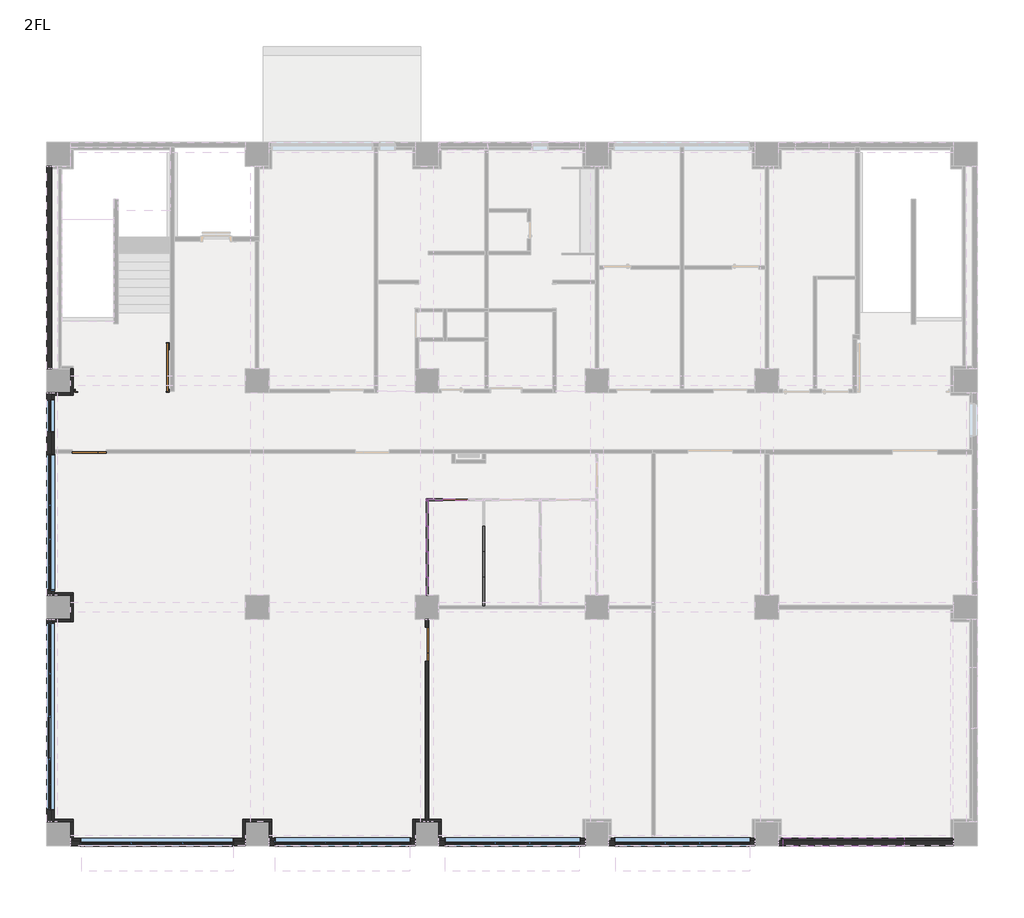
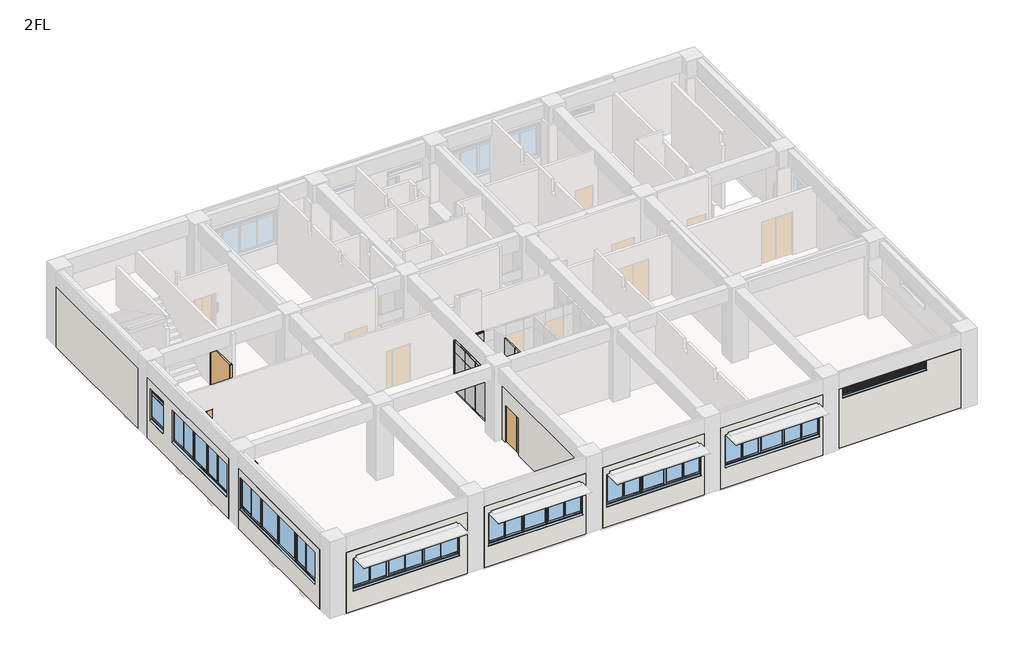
# One storey, part 1 of 7: 23 walls, 19 plates, 8 windows, 5 members, 4 doors.
"""IFC4 building model written with IfcOpenShell, lengths in millimetres."""

from ifc_helpers import new_model, si_unit, origin, place, context, project, spatial, faceted_brep, transform, mapped, element, save
from components import door_18b0804b, door_c235f466, pt1_1e1990d0, sd12_bd36843f, member_b4131282, member_8fee23aa, plate_5a323a1a, plate_79e9bfaa, plate_84f50978, plate_53a28b3e, plate_90ae5f52, plate_9f777739, plate_48083828, plate_facfa67a, pt_5_5902302a, ag_02_89f51cda, aw1_ddd8473e, aw2_a9c71f60, aw3_4e8724e7, aw6a_a2a86f3e

model = new_model("IFC4")

# Units and contexts
model_context = context("Model", 3, world=origin())
ifc_project = project(units=[si_unit("LENGTHUNIT", "METRE", prefix="MILLI")], contexts=[model_context])

# Site, building, storey
site = spatial("IfcSite", under=ifc_project)
building = spatial("IfcBuilding", under=site)
storey = spatial("IfcBuildingStorey", under=building, Name="2FL", Elevation=4100.0)

# Doors
placement = place(None, origin())
door_shape = door_18b0804b(model_context)
element("IfcDoor", 1, ObjectType="営_親子扉 : LD2 1200*2000", at=placement, inside=storey, context=model_context, shape_type="MappedRepresentation", body=[
    mapped(door_shape, transform((1065.0, 13500.0, 4100.0), x_axis=(-1.0, 0.0, 0.0), y_axis=(0.0, -1.0, 0.0), z_axis=(0.0, 0.0, 1.0))),
])
door_2_shape = door_c235f466(model_context)
element("IfcDoor", 2, ObjectType="営_親子扉 : LD2 1200*2000", at=placement, inside=storey, context=model_context, shape_type="MappedRepresentation", body=[
    mapped(door_2_shape, transform((13000.0, 6700.0, 4100.0), x_axis=(0.0, 1.0, 0.0), y_axis=(-1.0, 0.0, 0.0), z_axis=(0.0, 0.0, 1.0))),
])
pt1_shape = pt1_1e1990d0(model_context)
element("IfcDoor", 3, ObjectType="営_パーティションドア : PT3", at=placement, inside=storey, context=model_context, shape_type="MappedRepresentation", body=[
    mapped(pt1_shape, transform((14000.0, 11800.0, 4100.0), x_axis=(-1.0, 0.0, 0.0), y_axis=(0.0, -1.0, 0.0), z_axis=(0.0, 0.0, 1.0))),
])
sd12_shape = sd12_bd36843f(model_context)
element("IfcDoor", 4, ObjectType="営_随閉扉 B階段 2～4F : SD12", at=placement, inside=storey, context=model_context, shape_type="MappedRepresentation", body=[
    mapped(sd12_shape, transform((4000.0, 15635.0, 4100.0), x_axis=(0.0, -1.0, 0.0), y_axis=(1.0, 0.0, 0.0), z_axis=(0.0, 0.0, 1.0))),
])

# Members
member_shape = member_b4131282(model_context)
element("IfcMember", 5, ObjectType="長方形マリオン : 70*70", at=placement, inside=storey, context=model_context, shape_type="MappedRepresentation", body=[
    mapped(member_shape, transform((13000.0, 11835.0, 4100.0), x_axis=(0.0, 1.0, 0.0), y_axis=(1.0, 0.0, 0.0), z_axis=(0.0, 0.0, -1.0))),
])
member_2_shape = member_8fee23aa(model_context)
element("IfcMember", 6, ObjectType="長方形マリオン : 70*70", at=placement, inside=storey, context=model_context, shape_type="MappedRepresentation", body=[
    mapped(member_2_shape, transform((13000.0, 11835.0, 6200.0), x_axis=(0.0, 1.0, 0.0), y_axis=(1.0, 0.0, 0.0), z_axis=(0.0, 0.0, -1.0))),
])
element("IfcMember", 7, ObjectType="長方形マリオン : 70*70", at=placement, inside=storey, context=model_context, shape_type="MappedRepresentation", body=[
    mapped(member_shape, transform((12965.0, 11800.0, 6200.0), x_axis=(-1.0, 0.0, 0.0), y_axis=(0.0, -1.0, 0.0), z_axis=(0.0, 0.0, 1.0))),
])
element("IfcMember", 8, ObjectType="長方形マリオン : 70*70", at=placement, inside=storey, context=model_context, shape_type="MappedRepresentation", body=[
    mapped(member_2_shape, transform((12965.0, 11800.0, 6800.0), x_axis=(-1.0, 0.0, 0.0), y_axis=(0.0, -1.0, 0.0), z_axis=(0.0, 0.0, 1.0))),
])
element("IfcMember", 9, ObjectType="長方形マリオン : 70*70", at=placement, inside=storey, context=model_context, shape_type="MappedRepresentation", body=[
    mapped(member_2_shape, transform((15000.0, 8060.0, 4700.0), x_axis=(0.0, -1.0, 0.0), y_axis=(1.0, 0.0, 0.0), z_axis=(0.0, 0.0, 1.0))),
])

# Plates
plate_shape = plate_5a323a1a(model_context)
element("IfcPlate", 10, ObjectType="営_パーティションパネル_下部 : パーティションパネル_下部", at=placement, inside=storey, context=model_context, shape_type="MappedRepresentation", body=[
    mapped(plate_shape, transform((15000.0, 8147.4999998, 4100.0), x_axis=(0.0, 1.0, 0.0), y_axis=(-1.0, 0.0, 0.0), z_axis=(0.0, 0.0, 1.0))),
])
plate_2_shape = plate_79e9bfaa(model_context)
element("IfcPlate", 11, ObjectType="営_パーティションパネル_下部 : パーティションパネル_下部", at=placement, inside=storey, context=model_context, shape_type="MappedRepresentation", body=[
    mapped(plate_2_shape, transform((15000.0, 8112.4999998, 4700.0), x_axis=(0.0, 1.0, 0.0), y_axis=(-1.0, 0.0, 0.0), z_axis=(0.0, 0.0, 1.0))),
])
plate_3_shape = plate_84f50978(model_context)
element("IfcPlate", 12, ObjectType="営_パーティションパネル_下部 : パーティションパネル_下部", at=placement, inside=storey, context=model_context, shape_type="MappedRepresentation", body=[
    mapped(plate_3_shape, transform((13000.0, 9514.9999997, 4100.0), x_axis=(0.0, 1.0, 0.0), y_axis=(-1.0, 0.0, 0.0), z_axis=(0.0, 0.0, 1.0))),
])
element("IfcPlate", 13, ObjectType="営_パーティションパネル_下部 : パーティションパネル_下部", at=placement, inside=storey, context=model_context, shape_type="MappedRepresentation", body=[
    mapped(plate_3_shape, transform((13000.0, 10414.9999997, 4100.0), x_axis=(0.0, 1.0, 0.0), y_axis=(-1.0, 0.0, 0.0), z_axis=(0.0, 0.0, 1.0))),
])
element("IfcPlate", 14, ObjectType="営_パーティションパネル_下部 : パーティションパネル_下部", at=placement, inside=storey, context=model_context, shape_type="MappedRepresentation", body=[
    mapped(plate_3_shape, transform((13000.0, 11314.9999998, 4100.0), x_axis=(0.0, 1.0, 0.0), y_axis=(-1.0, 0.0, 0.0), z_axis=(0.0, 0.0, 1.0))),
])
element("IfcPlate", 15, ObjectType="営_パーティションパネル_下部 : パーティションパネル_下部", at=placement, inside=storey, context=model_context, shape_type="MappedRepresentation", body=[
    mapped(plate_3_shape, transform((15000.0, 8614.9999997, 4700.0), x_axis=(0.0, 1.0, 0.0), y_axis=(-1.0, 0.0, 0.0), z_axis=(0.0, 0.0, 1.0))),
])
element("IfcPlate", 16, ObjectType="営_パーティションパネル_下部 : パーティションパネル_下部", at=placement, inside=storey, context=model_context, shape_type="MappedRepresentation", body=[
    mapped(plate_3_shape, transform((15000.0, 9514.9999997, 4700.0), x_axis=(0.0, 1.0, 0.0), y_axis=(-1.0, 0.0, 0.0), z_axis=(0.0, 0.0, 1.0))),
])
element("IfcPlate", 17, ObjectType="営_パーティションパネル_下部 : パーティションパネル_下部", at=placement, inside=storey, context=model_context, shape_type="MappedRepresentation", body=[
    mapped(plate_3_shape, transform((15000.0, 10414.9999997, 4700.0), x_axis=(0.0, 1.0, 0.0), y_axis=(-1.0, 0.0, 0.0), z_axis=(0.0, 0.0, 1.0))),
])
plate_4_shape = plate_53a28b3e(model_context)
element("IfcPlate", 18, ObjectType="営_パーティションパネル_上部 : パーティションパネル_上部", at=placement, inside=storey, context=model_context, shape_type="MappedRepresentation", body=[
    mapped(plate_4_shape, transform((13000.0, 9514.9999997, 6200.0), x_axis=(0.0, 1.0, 0.0), y_axis=(-1.0, 0.0, 0.0), z_axis=(0.0, 0.0, 1.0))),
])
element("IfcPlate", 19, ObjectType="営_パーティションパネル_上部 : パーティションパネル_上部", at=placement, inside=storey, context=model_context, shape_type="MappedRepresentation", body=[
    mapped(plate_4_shape, transform((13000.0, 10414.9999997, 6200.0), x_axis=(0.0, 1.0, 0.0), y_axis=(-1.0, 0.0, 0.0), z_axis=(0.0, 0.0, 1.0))),
])
element("IfcPlate", 20, ObjectType="営_パーティションパネル_上部 : パーティションパネル_上部", at=placement, inside=storey, context=model_context, shape_type="MappedRepresentation", body=[
    mapped(plate_4_shape, transform((13000.0, 11314.9999998, 6200.0), x_axis=(0.0, 1.0, 0.0), y_axis=(-1.0, 0.0, 0.0), z_axis=(0.0, 0.0, 1.0))),
])
element("IfcPlate", 21, ObjectType="営_パーティションパネル_上部 : パーティションパネル_上部", at=placement, inside=storey, context=model_context, shape_type="MappedRepresentation", body=[
    mapped(plate_4_shape, transform((14000.0, 11800.0, 6200.0), x_axis=(1.0, 0.0, 0.0), y_axis=(0.0, 1.0, 0.0), z_axis=(0.0, 0.0, 1.0))),
])
plate_5_shape = plate_90ae5f52(model_context)
element("IfcPlate", 22, ObjectType="営_パーティションパネル_下部 : パーティションパネル_下部", at=placement, inside=storey, context=model_context, shape_type="MappedRepresentation", body=[
    mapped(plate_5_shape, transform((13292.5, 11800.0, 4100.0), x_axis=(1.0, 0.0, 0.0), y_axis=(0.0, 1.0, 0.0), z_axis=(0.0, 0.0, 1.0))),
])
plate_6_shape = plate_9f777739(model_context)
element("IfcPlate", 23, ObjectType="営_パーティションパネル_上部 : パーティションパネル_上部", at=placement, inside=storey, context=model_context, shape_type="MappedRepresentation", body=[
    mapped(plate_6_shape, transform((13292.5, 11800.0, 6200.0), x_axis=(1.0, 0.0, 0.0), y_axis=(0.0, 1.0, 0.0), z_axis=(0.0, 0.0, 1.0))),
])
plate_7_shape = plate_48083828(model_context)
element("IfcPlate", 24, ObjectType="営_パーティションパネル_下部 : パーティションパネル_下部", at=placement, inside=storey, context=model_context, shape_type="MappedRepresentation", body=[
    mapped(plate_7_shape, transform((13000.0, 8742.4999998, 4100.0), x_axis=(0.0, 1.0, 0.0), y_axis=(-1.0, 0.0, 0.0), z_axis=(0.0, 0.0, 1.0))),
])
plate_8_shape = plate_facfa67a(model_context)
element("IfcPlate", 25, ObjectType="営_パーティションパネル_上部 : パーティションパネル_上部", at=placement, inside=storey, context=model_context, shape_type="MappedRepresentation", body=[
    mapped(plate_8_shape, transform((13000.0, 8742.4999998, 6200.0), x_axis=(0.0, 1.0, 0.0), y_axis=(-1.0, 0.0, 0.0), z_axis=(0.0, 0.0, 1.0))),
])
pt_5_shape = pt_5_5902302a(model_context)
element("IfcPlate", 26, ObjectType="営_パーティションパネル_下部 : パーティションパネル_下部", at=placement, inside=storey, context=model_context, shape_type="MappedRepresentation", body=[
    mapped(pt_5_shape, transform((15000.0, 8614.9999997, 4100.0), x_axis=(0.0, 1.0, 0.0), y_axis=(-1.0, 0.0, 0.0), z_axis=(0.0, 0.0, 1.0))),
])
element("IfcPlate", 27, ObjectType="営_パーティションパネル_下部 : パーティションパネル_下部", at=placement, inside=storey, context=model_context, shape_type="MappedRepresentation", body=[
    mapped(pt_5_shape, transform((15000.0, 10414.9999997, 4100.0), x_axis=(0.0, 1.0, 0.0), y_axis=(-1.0, 0.0, 0.0), z_axis=(0.0, 0.0, 1.0))),
])
element("IfcPlate", 28, ObjectType="営_パーティションパネル_下部 : PT-5", at=placement, inside=storey, context=model_context, shape_type="MappedRepresentation", body=[
    mapped(pt_5_shape, transform((15000.0, 9514.9999997, 4100.0), x_axis=(0.0, 1.0, 0.0), y_axis=(-1.0, 0.0, 0.0), z_axis=(0.0, 0.0, 1.0))),
])

# Walls
element("IfcWall", 29, ObjectType="(外壁)RC150+20", at=placement, inside=storey, context=model_context, shape_type="Brep", body=[
    faceted_brep([(-250.0, 15580.0, 7200.0), (-250.0, 8420.0, 7200.0), (-250.0, 8420.0, 4000.0), (-250.0, 15580.0, 4000.0), (-250.0, 13410.0, 6820.0), (-250.0, 13410.0, 5165.0), (-250.0, 8590.0, 5165.0), (-250.0, 8590.0, 6820.0), (-250.0, 15345.0, 6820.0), (-250.0, 15345.0, 5165.0), (-250.0, 14165.0, 5165.0), (-250.0, 14165.0, 6820.0), (-420.0, 8420.0, 7200.0), (-420.0, 15580.0, 7200.0), (-420.0, 15580.0, 4000.0), (-420.0, 8420.0, 4000.0), (-420.0, 8620.0, 5075.0), (-420.0, 13380.0, 5075.0), (-420.0, 13380.0, 6795.0), (-420.0, 8620.0, 6795.0), (-420.0, 14195.0, 5075.0), (-420.0, 15315.0, 5075.0), (-420.0, 15315.0, 6795.0), (-420.0, 14195.0, 6795.0), (-335.0, 8420.0, 4000.0), (-325.0, 15580.0, 4000.0), (-290.0, 13410.0, 6820.0), (-290.0, 13410.0, 5165.0), (-290.0, 8590.0, 5165.0), (-290.0, 8590.0, 6820.0), (-290.0, 13400.0, 5165.0), (-290.0, 8600.0, 5165.0), (-290.0, 8600.0, 6815.0), (-290.0, 13400.0, 6815.0), (-360.0, 13400.0, 6815.0), (-360.0, 13400.0, 5084.2307692), (-290.0, 13400.0, 5095.0), (-290.0, 8600.0, 5095.0), (-360.0, 8600.0, 5084.2307692), (-360.0, 8600.0, 6815.0), (-360.0, 13380.0, 5084.2307692), (-360.0, 8620.0, 5084.2307692), (-360.0, 8620.0, 6795.0), (-360.0, 13380.0, 6795.0), (-290.0, 15345.0, 6820.0), (-290.0, 15345.0, 5165.0), (-290.0, 14165.0, 5165.0), (-290.0, 14165.0, 6820.0), (-290.0, 15335.0, 5165.0), (-290.0, 14175.0, 5165.0), (-290.0, 14175.0, 6815.0), (-290.0, 15335.0, 6815.0), (-360.0, 15335.0, 6815.0), (-360.0, 15335.0, 5084.2307692), (-290.0, 15335.0, 5095.0), (-290.0, 14175.0, 5095.0), (-360.0, 14175.0, 5084.2307692), (-360.0, 14175.0, 6815.0), (-360.0, 15315.0, 5084.2307692), (-360.0, 14195.0, 5084.2307692), (-360.0, 14195.0, 6795.0), (-360.0, 15315.0, 6795.0)], [[[0, 1, 2, 3], [4, 5, 6, 7], [8, 9, 10, 11]], [[12, 13, 14, 15], [16, 17, 18, 19], [20, 21, 22, 23]], [[2, 24, 15, 14, 25, 3]], [[26, 27, 5, 4]], [[28, 29, 7, 6]], [[5, 27, 30, 31, 28, 6]], [[27, 26, 29, 28, 31, 32, 33, 30]], [[26, 4, 7, 29]], [[30, 33, 34, 35, 36]], [[32, 31, 37, 38, 39]], [[36, 35, 40, 17, 16, 41, 38, 37]], [[35, 34, 39, 38, 41, 42, 43, 40]], [[33, 32, 39, 34]], [[31, 30, 36, 37]], [[17, 40, 43, 18]], [[41, 16, 19, 42]], [[43, 42, 19, 18]], [[44, 45, 9, 8]], [[46, 47, 11, 10]], [[9, 45, 48, 49, 46, 10]], [[45, 44, 47, 46, 49, 50, 51, 48]], [[44, 8, 11, 47]], [[48, 51, 52, 53, 54]], [[50, 49, 55, 56, 57]], [[54, 53, 58, 21, 20, 59, 56, 55]], [[53, 52, 57, 56, 59, 60, 61, 58]], [[51, 50, 57, 52]], [[49, 48, 54, 55]], [[21, 58, 61, 22]], [[59, 20, 23, 60]], [[61, 60, 23, 22]], [[15, 24, 2, 1, 12]], [[3, 25, 14, 13, 0]], [[1, 0, 13, 12]]]),
    faceted_brep([(-250.0, 23580.0, 7200.0), (-250.0, 16420.0, 7200.0), (-250.0, 16420.0, 4000.0), (-250.0, 23580.0, 4000.0), (-420.0, 16420.0, 7200.0), (-420.0, 23580.0, 7200.0), (-420.0, 23580.0, 4000.0), (-420.0, 16420.0, 4000.0), (-325.0, 16420.0, 4000.0), (-325.0, 23580.0, 4000.0)], [[[0, 1, 2, 3]], [[4, 5, 6, 7]], [[2, 8, 7, 6, 9, 3]], [[7, 8, 2, 1, 4]], [[3, 9, 6, 5, 0]], [[1, 0, 5, 4]]]),
    faceted_brep([(-250.0, 420.0, 4000.0), (-250.0, 7580.0, 4000.0), (-250.0, 7580.0, 7200.0), (-250.0, 420.0, 7200.0), (-250.0, 7465.0, 6820.0), (-250.0, 7465.0, 5165.0), (-250.0, 835.0, 5165.0), (-250.0, 835.0, 6820.0), (-420.0, 7580.0, 4000.0), (-420.0, 420.0, 4000.0), (-420.0, 420.0, 7200.0), (-420.0, 7580.0, 7200.0), (-420.0, 865.0, 5075.0), (-420.0, 7435.0, 5075.0), (-420.0, 7435.0, 6795.0), (-420.0, 865.0, 6795.0), (-290.0, 7465.0, 6820.0), (-290.0, 7465.0, 5165.0), (-290.0, 835.0, 5165.0), (-290.0, 835.0, 6820.0), (-290.0, 7455.0, 5165.0), (-290.0, 845.0, 5165.0), (-290.0, 845.0, 6815.0), (-290.0, 7455.0, 6815.0), (-360.0, 7455.0, 6815.0), (-360.0, 7455.0, 5084.2307692), (-290.0, 7455.0, 5095.0), (-290.0, 845.0, 5095.0), (-360.0, 845.0, 5084.2307692), (-360.0, 845.0, 6815.0), (-360.0, 7435.0, 5084.2307692), (-360.0, 865.0, 5084.2307692), (-360.0, 865.0, 6795.0), (-360.0, 7435.0, 6795.0)], [[[0, 1, 2, 3], [4, 5, 6, 7]], [[8, 9, 10, 11], [12, 13, 14, 15]], [[0, 9, 8, 1]], [[16, 17, 5, 4]], [[18, 19, 7, 6]], [[5, 17, 20, 21, 18, 6]], [[17, 16, 19, 18, 21, 22, 23, 20]], [[16, 4, 7, 19]], [[20, 23, 24, 25, 26]], [[22, 21, 27, 28, 29]], [[26, 25, 30, 13, 12, 31, 28, 27]], [[25, 24, 29, 28, 31, 32, 33, 30]], [[23, 22, 29, 24]], [[21, 20, 26, 27]], [[13, 30, 33, 14]], [[31, 12, 15, 32]], [[33, 32, 15, 14]], [[9, 0, 3, 10]], [[1, 8, 11, 2]], [[3, 2, 11, 10]]]),
])
element("IfcWall", 30, ObjectType="(外壁)RC150+20", at=placement, inside=storey, context=model_context, shape_type="Brep", body=[
    faceted_brep([(420.0, -250.0, 7250.0), (6580.0, -250.0, 7250.0), (6580.0, -250.0, 4000.0), (420.0, -250.0, 4000.0), (752.5, -250.0, 6820.0), (752.5, -250.0, 5165.0), (6177.5, -250.0, 5165.0), (6177.5, -250.0, 6820.0), (6580.0, -420.0, 7250.0), (420.0, -420.0, 7250.0), (420.0, -420.0, 4000.0), (6580.0, -420.0, 4000.0), (6147.5, -420.0, 5075.0), (782.5, -420.0, 5075.0), (782.5, -420.0, 6795.0), (6147.5, -420.0, 6795.0), (420.0, -325.0, 4000.0), (6580.0, -325.0, 4000.0), (752.5, -290.0, 6820.0), (752.5, -290.0, 5165.0), (6177.5, -290.0, 5165.0), (6177.5, -290.0, 6820.0), (762.5, -290.0, 5165.0), (6167.5, -290.0, 5165.0), (6167.5, -290.0, 6815.0), (762.5, -290.0, 6815.0), (762.5, -360.0, 6815.0), (762.5, -360.0, 5084.2307692), (762.5, -290.0, 5095.0), (6167.5, -290.0, 5095.0), (6167.5, -360.0, 5084.2307692), (6167.5, -360.0, 6815.0), (782.5, -360.0, 5084.2307692), (6147.5, -360.0, 5084.2307692), (6147.5, -360.0, 6795.0), (782.5, -360.0, 6795.0)], [[[0, 1, 2, 3], [4, 5, 6, 7]], [[8, 9, 10, 11], [12, 13, 14, 15]], [[10, 16, 3, 2, 17, 11]], [[18, 19, 5, 4]], [[20, 21, 7, 6]], [[5, 19, 22, 23, 20, 6]], [[19, 18, 21, 20, 23, 24, 25, 22]], [[18, 4, 7, 21]], [[22, 25, 26, 27, 28]], [[24, 23, 29, 30, 31]], [[28, 27, 32, 13, 12, 33, 30, 29]], [[27, 26, 31, 30, 33, 34, 35, 32]], [[25, 24, 31, 26]], [[23, 22, 28, 29]], [[13, 32, 35, 14]], [[33, 12, 15, 34]], [[35, 34, 15, 14]], [[11, 17, 2, 1, 8]], [[0, 3, 16, 10, 9]], [[1, 0, 9, 8]]]),
    faceted_brep([(7420.0, -250.0, 7250.0), (12580.0, -250.0, 7250.0), (12580.0, -250.0, 4000.0), (7420.0, -250.0, 4000.0), (7610.0, -250.0, 6820.0), (7610.0, -250.0, 5165.0), (12430.0, -250.0, 5165.0), (12430.0, -250.0, 6820.0), (12580.0, -420.0, 7250.0), (7420.0, -420.0, 7250.0), (7420.0, -420.0, 4000.0), (12580.0, -420.0, 4000.0), (12400.0, -420.0, 5075.0), (7640.0, -420.0, 5075.0), (7640.0, -420.0, 6795.0), (12400.0, -420.0, 6795.0), (7420.0, -325.0, 4000.0), (12580.0, -325.0, 4000.0), (7610.0, -290.0, 6820.0), (7610.0, -290.0, 5165.0), (12430.0, -290.0, 5165.0), (12430.0, -290.0, 6820.0), (7620.0, -290.0, 5165.0), (12420.0, -290.0, 5165.0), (12420.0, -290.0, 6815.0), (7620.0, -290.0, 6815.0), (7620.0, -360.0, 6815.0), (7620.0, -360.0, 5084.2307692), (7620.0, -290.0, 5095.0), (12420.0, -290.0, 5095.0), (12420.0, -360.0, 5084.2307692), (12420.0, -360.0, 6815.0), (7640.0, -360.0, 5084.2307692), (12400.0, -360.0, 5084.2307692), (12400.0, -360.0, 6795.0), (7640.0, -360.0, 6795.0)], [[[0, 1, 2, 3], [4, 5, 6, 7]], [[8, 9, 10, 11], [12, 13, 14, 15]], [[10, 16, 3, 2, 17, 11]], [[3, 16, 10, 9, 0]], [[11, 17, 2, 1, 8]], [[1, 0, 9, 8]], [[18, 19, 5, 4]], [[20, 21, 7, 6]], [[5, 19, 22, 23, 20, 6]], [[19, 18, 21, 20, 23, 24, 25, 22]], [[18, 4, 7, 21]], [[22, 25, 26, 27, 28]], [[24, 23, 29, 30, 31]], [[28, 27, 32, 13, 12, 33, 30, 29]], [[27, 26, 31, 30, 33, 34, 35, 32]], [[25, 24, 31, 26]], [[23, 22, 28, 29]], [[13, 32, 35, 14]], [[33, 12, 15, 34]], [[35, 34, 15, 14]]]),
    faceted_brep([(13420.0, -250.0, 7250.0), (18580.0, -250.0, 7250.0), (18580.0, -250.0, 4000.0), (13420.0, -250.0, 4000.0), (18430.0, -250.0, 5165.0), (18430.0, -250.0, 6820.0), (13610.0, -250.0, 6820.0), (13610.0, -250.0, 5165.0), (18580.0, -420.0, 7250.0), (13420.0, -420.0, 7250.0), (13420.0, -420.0, 4000.0), (18580.0, -420.0, 4000.0), (18400.0, -420.0, 5075.0), (13640.0, -420.0, 5075.0), (13640.0, -420.0, 6795.0), (18400.0, -420.0, 6795.0), (13420.0, -325.0, 4000.0), (18580.0, -325.0, 4000.0), (13610.0, -290.0, 6820.0), (13610.0, -290.0, 5165.0), (18430.0, -290.0, 5165.0), (18430.0, -290.0, 6820.0), (13620.0, -290.0, 5165.0), (18420.0, -290.0, 5165.0), (18420.0, -290.0, 6815.0), (13620.0, -290.0, 6815.0), (13620.0, -360.0, 6815.0), (13620.0, -360.0, 5084.2307692), (13620.0, -290.0, 5095.0), (18420.0, -290.0, 5095.0), (18420.0, -360.0, 5084.2307692), (18420.0, -360.0, 6815.0), (13640.0, -360.0, 5084.2307692), (18400.0, -360.0, 5084.2307692), (18400.0, -360.0, 6795.0), (13640.0, -360.0, 6795.0)], [[[0, 1, 2, 3], [4, 5, 6, 7]], [[8, 9, 10, 11], [12, 13, 14, 15]], [[10, 16, 3, 2, 17, 11]], [[3, 16, 10, 9, 0]], [[11, 17, 2, 1, 8]], [[1, 0, 9, 8]], [[18, 19, 7, 6]], [[20, 21, 5, 4]], [[19, 22, 23, 20, 4, 7]], [[19, 18, 21, 20, 23, 24, 25, 22]], [[21, 18, 6, 5]], [[22, 25, 26, 27, 28]], [[24, 23, 29, 30, 31]], [[28, 27, 32, 13, 12, 33, 30, 29]], [[27, 26, 31, 30, 33, 34, 35, 32]], [[25, 24, 31, 26]], [[23, 22, 28, 29]], [[13, 32, 35, 14]], [[33, 12, 15, 34]], [[35, 34, 15, 14]]]),
    faceted_brep([(19420.0, -250.0, 7250.0), (24580.0, -250.0, 7250.0), (24580.0, -250.0, 4090.0), (24580.0, -250.0, 4000.0), (21200.0, -250.0, 4000.0), (20950.0, -250.0, 4000.0), (19420.0, -250.0, 4000.0), (19610.0, -250.0, 6820.0), (19610.0, -250.0, 5165.0), (24430.0, -250.0, 5165.0), (24430.0, -250.0, 6820.0), (24580.0, -420.0, 7250.0), (19420.0, -420.0, 7250.0), (19420.0, -420.0, 4000.0), (24580.0, -420.0, 4000.0), (24400.0, -420.0, 5075.0), (19640.0, -420.0, 5075.0), (19640.0, -420.0, 6795.0), (24400.0, -420.0, 6795.0), (19420.0, -325.0, 4000.0), (19610.0, -290.0, 6820.0), (19610.0, -290.0, 5165.0), (24430.0, -290.0, 5165.0), (24430.0, -290.0, 6820.0), (19620.0, -290.0, 5165.0), (24420.0, -290.0, 5165.0), (24420.0, -290.0, 6815.0), (19620.0, -290.0, 6815.0), (19620.0, -360.0, 6815.0), (19620.0, -360.0, 5084.2307692), (19620.0, -290.0, 5095.0), (24420.0, -290.0, 5095.0), (24420.0, -360.0, 5084.2307692), (24420.0, -360.0, 6815.0), (19640.0, -360.0, 5084.2307692), (24400.0, -360.0, 5084.2307692), (24400.0, -360.0, 6795.0), (19640.0, -360.0, 6795.0)], [[[0, 1, 2, 3, 4, 5, 6], [7, 8, 9, 10]], [[11, 12, 13, 14], [15, 16, 17, 18]], [[13, 19, 6, 5, 4, 3, 14]], [[20, 21, 8, 7]], [[22, 23, 10, 9]], [[8, 21, 24, 25, 22, 9]], [[21, 20, 23, 22, 25, 26, 27, 24]], [[20, 7, 10, 23]], [[24, 27, 28, 29, 30]], [[26, 25, 31, 32, 33]], [[30, 29, 34, 16, 15, 35, 32, 31]], [[29, 28, 33, 32, 35, 36, 37, 34]], [[27, 26, 33, 28]], [[25, 24, 30, 31]], [[16, 34, 37, 17]], [[35, 15, 18, 36]], [[37, 36, 18, 17]], [[6, 19, 13, 12, 0]], [[14, 3, 2, 1, 11]], [[1, 0, 12, 11]]]),
    faceted_brep([(25420.0, -250.0, 7250.0), (31580.0, -250.0, 7250.0), (31580.0, -250.0, 4090.0), (25420.0, -250.0, 4090.0), (25572.7, -250.0, 7235.0), (25572.7, -250.0, 6815.0), (29852.7, -250.0, 6815.0), (29852.7, -250.0, 7235.0), (31580.0, -420.0, 7250.0), (25420.0, -420.0, 7250.0), (25420.0, -420.0, 4090.0), (31580.0, -420.0, 4090.0), (29822.7, -420.0, 6725.0), (25602.7, -420.0, 6725.0), (25602.7, -420.0, 7210.0), (29822.7, -420.0, 7210.0), (25572.7, -290.0, 7235.0), (25572.7, -290.0, 6815.0), (29852.7, -290.0, 6815.0), (29852.7, -290.0, 7235.0), (25582.7, -290.0, 6815.0), (29842.7, -290.0, 6815.0), (29842.7, -290.0, 7230.0), (25582.7, -290.0, 7230.0), (25582.7, -360.0, 7230.0), (25582.7, -360.0, 6734.2307692), (25582.7, -290.0, 6745.0), (29842.7, -290.0, 6745.0), (29842.7, -360.0, 6734.2307692), (29842.7, -360.0, 7230.0), (25602.7, -360.0, 6734.2307692), (29822.7, -360.0, 6734.2307692), (29822.7, -360.0, 7210.0), (25602.7, -360.0, 7210.0)], [[[0, 1, 2, 3], [4, 5, 6, 7]], [[8, 9, 10, 11], [12, 13, 14, 15]], [[9, 0, 3, 10]], [[1, 8, 11, 2]], [[1, 0, 9, 8]], [[16, 17, 5, 4]], [[18, 19, 7, 6]], [[5, 17, 20, 21, 18, 6]], [[17, 16, 19, 18, 21, 22, 23, 20]], [[16, 4, 7, 19]], [[20, 23, 24, 25, 26]], [[22, 21, 27, 28, 29]], [[26, 25, 30, 13, 12, 31, 28, 27]], [[25, 24, 29, 28, 31, 32, 33, 30]], [[23, 22, 29, 24]], [[21, 20, 26, 27]], [[13, 30, 33, 14]], [[31, 12, 15, 32]], [[33, 32, 15, 14]], [[3, 2, 11, 10]]]),
])
element("IfcWall", 31, ObjectType="(内壁)W4", at=placement, inside=storey, context=model_context, shape_type="Brep", body=[
    faceted_brep([(13060.0, 6100.0, 4100.0), (13060.0, 6100.0, 6100.0), (13060.0, 7300.0, 6100.0), (13060.0, 7300.0, 4100.0), (13060.0, 7580.0, 4100.0), (13060.0, 7580.0, 7200.0), (13060.0, 510.0, 7200.0), (13060.0, 420.0, 7200.0), (13060.0, 420.0, 4100.0), (13060.0, 510.0, 4100.0), (12940.0, 6100.0, 6100.0), (12940.0, 6100.0, 4100.0), (12940.0, 510.0, 4100.0), (12940.0, 420.0, 4100.0), (12940.0, 420.0, 7200.0), (12940.0, 510.0, 7200.0), (12940.0, 7580.0, 7200.0), (12940.0, 7580.0, 4100.0), (12940.0, 7300.0, 4100.0), (12940.0, 7300.0, 6100.0)], [[[0, 1, 2, 3, 4, 5, 6, 7, 8, 9]], [[10, 11, 12, 13, 14, 15, 16, 17, 18, 19]], [[11, 0, 9, 8, 13, 12]], [[3, 18, 17, 4]], [[11, 10, 1, 0]], [[19, 18, 3, 2]], [[10, 19, 2, 1]], [[13, 8, 7, 14]], [[4, 17, 16, 5]], [[7, 6, 5, 16, 15, 14]]]),
])
element("IfcWall", 32, ObjectType="(内壁)W5", at=placement, inside=storey, context=model_context, shape_type="Brep", body=[
    faceted_brep([(420.0, 16420.0, 4100.0), (420.0, 15580.0, 4100.0), (420.0, 15490.0, 4100.0), (420.0, 15490.0, 7200.0), (420.0, 15580.0, 7200.0), (420.0, 16420.0, 7200.0), (510.0, 16420.0, 4100.0), (510.0, 16420.0, 7200.0), (510.0, 15490.0, 7200.0), (510.0, 15490.0, 4100.0)], [[[0, 1, 2, 3, 4, 5]], [[6, 7, 8, 9]], [[2, 1, 0, 6, 9]], [[5, 4, 3, 8, 7]], [[0, 5, 7, 6]], [[3, 2, 9, 8]]]),
])
element("IfcWall", 33, ObjectType="(内壁)W5", at=placement, inside=storey, context=model_context, shape_type="Brep", body=[
    faceted_brep([(420.0, 15580.0, 4100.0), (-250.0, 15580.0, 4100.0), (-250.0, 15580.0, 7200.0), (420.0, 15580.0, 7200.0), (420.0, 15490.0, 4100.0), (420.0, 15490.0, 7200.0), (-160.0, 15490.0, 7200.0), (-250.0, 15490.0, 7200.0), (-250.0, 15490.0, 4100.0)], [[[0, 1, 2, 3]], [[4, 5, 6, 7, 8]], [[1, 0, 4, 8]], [[3, 2, 7, 6, 5]], [[0, 3, 5, 4]], [[2, 1, 8, 7]]]),
])
element("IfcWall", 34, ObjectType="(内壁)W5", at=placement, inside=storey, context=model_context, shape_type="Brep", body=[
    faceted_brep([(-250.0, 15490.0, 4090.0), (-250.0, 8420.0, 4090.0), (-250.0, 8420.0, 7200.0), (-250.0, 15490.0, 7200.0), (-250.0, 15490.0, 4100.0), (-250.0, 15345.0, 5165.0), (-250.0, 15345.0, 6820.0), (-250.0, 14165.0, 6820.0), (-250.0, 14165.0, 5165.0), (-250.0, 13410.0, 5165.0), (-250.0, 13410.0, 6820.0), (-250.0, 8590.0, 6820.0), (-250.0, 8590.0, 5165.0), (-160.0, 8420.0, 4090.0), (-160.0, 15490.0, 4090.0), (-160.0, 15490.0, 7200.0), (-160.0, 8510.0, 7200.0), (-160.0, 8420.0, 7200.0), (-160.0, 15345.0, 6820.0), (-160.0, 15345.0, 5165.0), (-160.0, 14165.0, 5165.0), (-160.0, 14165.0, 6820.0), (-160.0, 13410.0, 6820.0), (-160.0, 13410.0, 5165.0), (-160.0, 8590.0, 5165.0), (-160.0, 8590.0, 6820.0)], [[[0, 1, 2, 3, 4], [5, 6, 7, 8], [9, 10, 11, 12]], [[13, 14, 15, 16, 17], [18, 19, 20, 21], [22, 23, 24, 25]], [[1, 0, 14, 13]], [[3, 2, 17, 16, 15]], [[0, 4, 3, 15, 14]], [[2, 1, 13, 17]], [[18, 6, 5, 19]], [[20, 8, 7, 21]], [[19, 5, 8, 20]], [[6, 18, 21, 7]], [[22, 10, 9, 23]], [[24, 12, 11, 25]], [[23, 9, 12, 24]], [[10, 22, 25, 11]]]),
])
element("IfcWall", 35, ObjectType="(内壁)W5", at=placement, inside=storey, context=model_context, shape_type="Brep", body=[
    faceted_brep([(-160.0, 8420.0, 4000.0), (420.0, 8420.0, 4000.0), (510.0, 8420.0, 4000.0), (510.0, 8420.0, 7200.0), (420.0, 8420.0, 7200.0), (-160.0, 8420.0, 7200.0), (-160.0, 8420.0, 4090.0), (-160.0, 8510.0, 4000.0), (-160.0, 8510.0, 7200.0), (510.0, 8510.0, 7200.0), (510.0, 8510.0, 4000.0)], [[[0, 1, 2, 3, 4, 5, 6]], [[7, 8, 9, 10]], [[2, 1, 0, 7, 10]], [[5, 4, 3, 9, 8]], [[0, 6, 5, 8, 7]], [[3, 2, 10, 9]]]),
])
element("IfcWall", 36, ObjectType="(内壁)W5", at=placement, inside=storey, context=model_context, shape_type="Brep", body=[
    faceted_brep([(420.0, 8420.0, 4000.0), (420.0, 7580.0, 4000.0), (420.0, 7490.0, 4000.0), (420.0, 7490.0, 7200.0), (420.0, 7580.0, 7200.0), (420.0, 8420.0, 7200.0), (510.0, 8420.0, 4000.0), (510.0, 8420.0, 7200.0), (510.0, 7490.0, 7200.0), (510.0, 7490.0, 4000.0)], [[[0, 1, 2, 3, 4, 5]], [[6, 7, 8, 9]], [[2, 1, 0, 6, 9]], [[5, 4, 3, 8, 7]], [[0, 5, 7, 6]], [[3, 2, 9, 8]]]),
])
element("IfcWall", 37, ObjectType="(内壁)W5", at=placement, inside=storey, context=model_context, shape_type="Brep", body=[
    faceted_brep([(420.0, 7580.0, 4000.0), (-250.0, 7580.0, 4000.0), (-250.0, 7580.0, 7200.0), (420.0, 7580.0, 7200.0), (420.0, 7490.0, 4000.0), (420.0, 7490.0, 7200.0), (-160.0, 7490.0, 7200.0), (-250.0, 7490.0, 7200.0), (-250.0, 7490.0, 4000.0), (-160.0, 7490.0, 4000.0)], [[[0, 1, 2, 3]], [[4, 5, 6, 7, 8, 9]], [[1, 0, 4, 9, 8]], [[3, 2, 7, 6, 5]], [[0, 3, 5, 4]], [[2, 1, 8, 7]]]),
])
element("IfcWall", 38, ObjectType="(内壁)W5", at=placement, inside=storey, context=model_context, shape_type="Brep", body=[
    faceted_brep([(-250.0, 7490.0, 4000.0), (-250.0, 420.0, 4000.0), (-250.0, 420.0, 7200.0), (-250.0, 7490.0, 7200.0), (-250.0, 7465.0, 5165.0), (-250.0, 7465.0, 6820.0), (-250.0, 835.0, 6820.0), (-250.0, 835.0, 5165.0), (-160.0, 420.0, 4000.0), (-160.0, 510.0, 4000.0), (-160.0, 7490.0, 4000.0), (-160.0, 7490.0, 7200.0), (-160.0, 510.0, 7200.0), (-160.0, 420.0, 7200.0), (-160.0, 7465.0, 6820.0), (-160.0, 7465.0, 5165.0), (-160.0, 835.0, 5165.0), (-160.0, 835.0, 6820.0)], [[[0, 1, 2, 3], [4, 5, 6, 7]], [[8, 9, 10, 11, 12, 13], [14, 15, 16, 17]], [[1, 0, 10, 9, 8]], [[3, 2, 13, 12, 11]], [[0, 3, 11, 10]], [[2, 1, 8, 13]], [[14, 5, 4, 15]], [[16, 7, 6, 17]], [[15, 4, 7, 16]], [[5, 14, 17, 6]]]),
])
element("IfcWall", 39, ObjectType="(内壁)W5", at=placement, inside=storey, context=model_context, shape_type="Brep", body=[
    faceted_brep([(-160.0, 420.0, 4000.0), (420.0, 420.0, 4000.0), (510.0, 420.0, 4000.0), (510.0, 420.0, 7200.0), (420.0, 420.0, 7200.0), (-160.0, 420.0, 7200.0), (-160.0, 510.0, 4000.0), (-160.0, 510.0, 7200.0), (510.0, 510.0, 7200.0), (510.0, 510.0, 4000.0)], [[[0, 1, 2, 3, 4, 5]], [[6, 7, 8, 9]], [[2, 1, 0, 6, 9]], [[5, 4, 3, 8, 7]], [[0, 5, 7, 6]], [[3, 2, 9, 8]]]),
])
element("IfcWall", 40, ObjectType="(内壁)W5", at=placement, inside=storey, context=model_context, shape_type="Brep", body=[
    faceted_brep([(420.0, 420.0, 4000.0), (420.0, -250.0, 4000.0), (420.0, -250.0, 7200.0), (420.0, 420.0, 7200.0), (510.0, 420.0, 4000.0), (510.0, 420.0, 7200.0), (510.0, -160.0, 7200.0), (510.0, -250.0, 7200.0), (510.0, -250.0, 4000.0), (510.0, -160.0, 4000.0)], [[[0, 1, 2, 3]], [[4, 5, 6, 7, 8, 9]], [[1, 0, 4, 9, 8]], [[3, 2, 7, 6, 5]], [[0, 3, 5, 4]], [[2, 1, 8, 7]]]),
])
element("IfcWall", 41, ObjectType="(内壁)W5", at=placement, inside=storey, context=model_context, shape_type="Brep", body=[
    faceted_brep([(510.0, -250.0, 4000.0), (6580.0, -250.0, 4000.0), (6580.0, -250.0, 7200.0), (510.0, -250.0, 7200.0), (752.5, -250.0, 5165.0), (752.5, -250.0, 6820.0), (6177.5, -250.0, 6820.0), (6177.5, -250.0, 5165.0), (6580.0, -160.0, 4000.0), (6490.0, -160.0, 4000.0), (510.0, -160.0, 4000.0), (510.0, -160.0, 7200.0), (6490.0, -160.0, 7200.0), (6580.0, -160.0, 7200.0), (752.5, -160.0, 6820.0), (752.5, -160.0, 5165.0), (6177.5, -160.0, 5165.0), (6177.5, -160.0, 6820.0)], [[[0, 1, 2, 3], [4, 5, 6, 7]], [[8, 9, 10, 11, 12, 13], [14, 15, 16, 17]], [[1, 0, 10, 9, 8]], [[3, 2, 13, 12, 11]], [[0, 3, 11, 10]], [[2, 1, 8, 13]], [[14, 5, 4, 15]], [[16, 7, 6, 17]], [[15, 4, 7, 16]], [[5, 14, 17, 6]]]),
])
element("IfcWall", 42, ObjectType="(内壁)W5", at=placement, inside=storey, context=model_context, shape_type="Brep", body=[
    faceted_brep([(6580.0, -160.0, 4000.0), (6580.0, 420.0, 4000.0), (6580.0, 510.0, 4000.0), (6580.0, 510.0, 7200.0), (6580.0, 420.0, 7200.0), (6580.0, -160.0, 7200.0), (6490.0, -160.0, 4000.0), (6490.0, -160.0, 7200.0), (6490.0, 510.0, 7200.0), (6490.0, 510.0, 4000.0)], [[[0, 1, 2, 3, 4, 5]], [[6, 7, 8, 9]], [[2, 1, 0, 6, 9]], [[5, 4, 3, 8, 7]], [[0, 5, 7, 6]], [[3, 2, 9, 8]]]),
])
element("IfcWall", 43, ObjectType="(内壁)W5", at=placement, inside=storey, context=model_context, shape_type="Brep", body=[
    faceted_brep([(6580.0, 420.0, 4000.0), (7420.0, 420.0, 4000.0), (7510.0, 420.0, 4000.0), (7510.0, 420.0, 7200.0), (7420.0, 420.0, 7200.0), (6580.0, 420.0, 7200.0), (6580.0, 510.0, 4000.0), (6580.0, 510.0, 7200.0), (7510.0, 510.0, 7200.0), (7510.0, 510.0, 4000.0)], [[[0, 1, 2, 3, 4, 5]], [[6, 7, 8, 9]], [[2, 1, 0, 6, 9]], [[5, 4, 3, 8, 7]], [[0, 5, 7, 6]], [[3, 2, 9, 8]]]),
])
element("IfcWall", 44, ObjectType="(内壁)W5", at=placement, inside=storey, context=model_context, shape_type="Brep", body=[
    faceted_brep([(7420.0, 420.0, 4000.0), (7420.0, -250.0, 4000.0), (7420.0, -250.0, 7200.0), (7420.0, 420.0, 7200.0), (7510.0, 420.0, 4000.0), (7510.0, 420.0, 7200.0), (7510.0, -160.0, 7200.0), (7510.0, -250.0, 7200.0), (7510.0, -250.0, 4000.0), (7510.0, -160.0, 4000.0)], [[[0, 1, 2, 3]], [[4, 5, 6, 7, 8, 9]], [[1, 0, 4, 9, 8]], [[3, 2, 7, 6, 5]], [[0, 3, 5, 4]], [[2, 1, 8, 7]]]),
])
element("IfcWall", 45, ObjectType="(内壁)W5", at=placement, inside=storey, context=model_context, shape_type="Brep", body=[
    faceted_brep([(7510.0, -250.0, 4000.0), (12580.0, -250.0, 4000.0), (12580.0, -250.0, 7200.0), (7510.0, -250.0, 7200.0), (7610.0, -250.0, 5165.0), (7610.0, -250.0, 6820.0), (12430.0, -250.0, 6820.0), (12430.0, -250.0, 5165.0), (12580.0, -160.0, 4000.0), (12490.0, -160.0, 4000.0), (7510.0, -160.0, 4000.0), (7510.0, -160.0, 7200.0), (12490.0, -160.0, 7200.0), (12580.0, -160.0, 7200.0), (7610.0, -160.0, 6820.0), (7610.0, -160.0, 5165.0), (12430.0, -160.0, 5165.0), (12430.0, -160.0, 6820.0)], [[[0, 1, 2, 3], [4, 5, 6, 7]], [[8, 9, 10, 11, 12, 13], [14, 15, 16, 17]], [[1, 0, 10, 9, 8]], [[3, 2, 13, 12, 11]], [[0, 3, 11, 10]], [[2, 1, 8, 13]], [[14, 5, 4, 15]], [[16, 7, 6, 17]], [[15, 4, 7, 16]], [[5, 14, 17, 6]]]),
])
element("IfcWall", 46, ObjectType="(内壁)W5", at=placement, inside=storey, context=model_context, shape_type="Brep", body=[
    faceted_brep([(12580.0, -160.0, 4000.0), (12580.0, 420.0, 4000.0), (12580.0, 510.0, 4000.0), (12580.0, 510.0, 7200.0), (12580.0, 420.0, 7200.0), (12580.0, -160.0, 7200.0), (12490.0, -160.0, 4000.0), (12490.0, -160.0, 7200.0), (12490.0, 510.0, 7200.0), (12490.0, 510.0, 4000.0)], [[[0, 1, 2, 3, 4, 5]], [[6, 7, 8, 9]], [[2, 1, 0, 6, 9]], [[5, 4, 3, 8, 7]], [[0, 5, 7, 6]], [[3, 2, 9, 8]]]),
])
element("IfcWall", 47, ObjectType="(内壁)W5", at=placement, inside=storey, context=model_context, shape_type="Brep", body=[
    faceted_brep([(12580.0, 420.0, 4000.0), (13420.0, 420.0, 4000.0), (13510.0, 420.0, 4000.0), (13510.0, 420.0, 7200.0), (13420.0, 420.0, 7200.0), (13060.0, 420.0, 7200.0), (13060.0, 420.0, 4100.0), (12940.0, 420.0, 4100.0), (12940.0, 420.0, 7200.0), (12580.0, 420.0, 7200.0), (13510.0, 510.0, 4000.0), (12580.0, 510.0, 4000.0), (12580.0, 510.0, 7200.0), (12940.0, 510.0, 7200.0), (12940.0, 510.0, 4100.0), (13060.0, 510.0, 4100.0), (13060.0, 510.0, 7200.0), (13510.0, 510.0, 7200.0)], [[[0, 1, 2, 3, 4, 5, 6, 7, 8, 9]], [[10, 11, 12, 13, 14, 15, 16, 17]], [[2, 1, 0, 11, 10]], [[12, 9, 8, 13]], [[3, 17, 16, 5, 4]], [[0, 9, 12, 11]], [[3, 2, 10, 17]], [[15, 6, 5, 16]], [[7, 14, 13, 8]], [[6, 15, 14, 7]]]),
])
element("IfcWall", 48, ObjectType="(内壁)W5", at=placement, inside=storey, context=model_context, shape_type="Brep", body=[
    faceted_brep([(13420.0, 420.0, 4000.0), (13420.0, -250.0, 4000.0), (13420.0, -250.0, 7200.0), (13420.0, 420.0, 7200.0), (13510.0, 420.0, 4000.0), (13510.0, 420.0, 7200.0), (13510.0, -160.0, 7200.0), (13510.0, -250.0, 7200.0), (13510.0, -250.0, 4000.0), (13510.0, -160.0, 4000.0)], [[[0, 1, 2, 3]], [[4, 5, 6, 7, 8, 9]], [[1, 0, 4, 9, 8]], [[3, 2, 7, 6, 5]], [[0, 3, 5, 4]], [[2, 1, 8, 7]]]),
])
element("IfcWall", 49, ObjectType="(内壁)W5", at=placement, inside=storey, context=model_context, shape_type="Brep", body=[
    faceted_brep([(13510.0, -250.0, 4000.0), (18580.0, -250.0, 4000.0), (18580.0, -250.0, 7200.0), (13510.0, -250.0, 7200.0), (13610.0, -250.0, 5165.0), (13610.0, -250.0, 6820.0), (18430.0, -250.0, 6820.0), (18430.0, -250.0, 5165.0), (18580.0, -160.0, 4000.0), (18490.0, -160.0, 4000.0), (13510.0, -160.0, 4000.0), (13510.0, -160.0, 7200.0), (18490.0, -160.0, 7200.0), (18580.0, -160.0, 7200.0), (13610.0, -160.0, 6820.0), (13610.0, -160.0, 5165.0), (18430.0, -160.0, 5165.0), (18430.0, -160.0, 6820.0)], [[[0, 1, 2, 3], [4, 5, 6, 7]], [[8, 9, 10, 11, 12, 13], [14, 15, 16, 17]], [[1, 0, 10, 9, 8]], [[3, 2, 13, 12, 11]], [[0, 3, 11, 10]], [[2, 1, 8, 13]], [[14, 5, 4, 15]], [[16, 7, 6, 17]], [[15, 4, 7, 16]], [[5, 14, 17, 6]]]),
])
element("IfcWall", 50, ObjectType="(内壁)W5", at=placement, inside=storey, context=model_context, shape_type="Brep", body=[
    faceted_brep([(19510.0, -250.0, 4000.0), (24580.0, -250.0, 4000.0), (24580.0, -250.0, 7200.0), (19510.0, -250.0, 7200.0), (19610.0, -250.0, 5165.0), (19610.0, -250.0, 6820.0), (24430.0, -250.0, 6820.0), (24430.0, -250.0, 5165.0), (24580.0, -160.0, 4000.0), (24490.0, -160.0, 4000.0), (19510.0, -160.0, 4000.0), (19510.0, -160.0, 7200.0), (24490.0, -160.0, 7200.0), (24580.0, -160.0, 7200.0), (19610.0, -160.0, 6820.0), (19610.0, -160.0, 5165.0), (24430.0, -160.0, 5165.0), (24430.0, -160.0, 6820.0)], [[[0, 1, 2, 3], [4, 5, 6, 7]], [[8, 9, 10, 11, 12, 13], [14, 15, 16, 17]], [[1, 0, 10, 9, 8]], [[3, 2, 13, 12, 11]], [[0, 3, 11, 10]], [[2, 1, 8, 13]], [[14, 5, 4, 15]], [[16, 7, 6, 17]], [[15, 4, 7, 16]], [[5, 14, 17, 6]]]),
])
element("IfcWall", 51, ObjectType="(内壁)W5", at=placement, inside=storey, context=model_context, shape_type="Brep", body=[
    faceted_brep([(25572.7, -250.0, 7200.0), (25510.0, -250.0, 7200.0), (25510.0, -250.0, 4090.0), (31580.0, -250.0, 4090.0), (31580.0, -250.0, 7200.0), (29852.7, -250.0, 7200.0), (29852.7, -250.0, 6815.0), (25572.7, -250.0, 6815.0), (25510.0, -160.0, 7200.0), (25572.7, -160.0, 7200.0), (25572.7, -160.0, 6815.0), (29852.7, -160.0, 6815.0), (29852.7, -160.0, 7200.0), (31490.0, -160.0, 7200.0), (31580.0, -160.0, 7200.0), (31580.0, -160.0, 4090.0), (31490.0, -160.0, 4090.0), (25510.0, -160.0, 4090.0)], [[[0, 1, 2, 3, 4, 5, 6, 7]], [[8, 9, 10, 11, 12, 13, 14, 15, 16, 17]], [[8, 1, 0, 9]], [[4, 14, 13, 12, 5]], [[1, 8, 17, 2]], [[14, 4, 3, 15]], [[7, 10, 9, 0]], [[11, 6, 5, 12]], [[10, 7, 6, 11]], [[3, 2, 17, 16, 15]]]),
])

# Windows
ag_02_shape = ag_02_89f51cda(model_context)
element("IfcWindow", 52, ObjectType="営_単窓_ガラリ : AG-02", at=placement, inside=storey, context=model_context, shape_type="MappedRepresentation", body=[
    mapped(ag_02_shape, transform((27712.7, -335.0, 5650.0), x_axis=(-1.0, 0.0, 0.0), y_axis=(0.0, -1.0, 0.0), z_axis=(0.0, 0.0, 1.0))),
])
aw1_shape = aw1_ddd8473e(model_context)
element("IfcWindow", 53, ObjectType="営_連窓_両開き戸2+FIX1 : AW1", at=placement, inside=storey, context=model_context, shape_type="MappedRepresentation", body=[
    mapped(aw1_shape, transform((22020.0, -335.0, 4100.0), x_axis=(-1.0, 0.0, 0.0), y_axis=(0.0, -1.0, 0.0), z_axis=(0.0, 0.0, 1.0))),
])
element("IfcWindow", 54, ObjectType="営_連窓_両開き戸2+FIX1 : AW1", at=placement, inside=storey, context=model_context, shape_type="MappedRepresentation", body=[
    mapped(aw1_shape, transform((-335.0, 11000.0, 4100.0), x_axis=(0.0, 1.0, 0.0), y_axis=(-1.0, 0.0, 0.0), z_axis=(0.0, 0.0, 1.0))),
])
element("IfcWindow", 55, ObjectType="営_連窓_両開き戸2+FIX1 : AW1", at=placement, inside=storey, context=model_context, shape_type="MappedRepresentation", body=[
    mapped(aw1_shape, transform((10020.0, -335.0, 4100.0), x_axis=(-1.0, 0.0, 0.0), y_axis=(0.0, -1.0, 0.0), z_axis=(0.0, 0.0, 1.0))),
])
element("IfcWindow", 56, ObjectType="営_連窓_両開き戸2+FIX1 : AW1", at=placement, inside=storey, context=model_context, shape_type="MappedRepresentation", body=[
    mapped(aw1_shape, transform((16020.0, -335.0, 4100.0), x_axis=(-1.0, 0.0, 0.0), y_axis=(0.0, -1.0, 0.0), z_axis=(0.0, 0.0, 1.0))),
])
aw2_shape = aw2_a9c71f60(model_context)
element("IfcWindow", 57, ObjectType="営_連窓_引違い3 : AW2", at=placement, inside=storey, context=model_context, shape_type="MappedRepresentation", body=[
    mapped(aw2_shape, transform((3465.0, -335.0, 4100.0), x_axis=(-1.0, 0.0, 0.0), y_axis=(0.0, -1.0, 0.0), z_axis=(0.0, 0.0, 1.0))),
])
aw3_shape = aw3_4e8724e7(model_context)
element("IfcWindow", 58, ObjectType="営_連窓_引違い2+FIX2 : AW3", at=placement, inside=storey, context=model_context, shape_type="MappedRepresentation", body=[
    mapped(aw3_shape, transform((-335.0, 4150.0, 4100.0), x_axis=(0.0, 1.0, 0.0), y_axis=(-1.0, 0.0, 0.0), z_axis=(0.0, 0.0, 1.0))),
])
aw6a_shape = aw6a_a2a86f3e(model_context)
element("IfcWindow", 59, ObjectType="営_段窓_縦辷出し/ガラリ : AW6b", at=placement, inside=storey, context=model_context, shape_type="MappedRepresentation", body=[
    mapped(aw6a_shape, transform((-335.0, 14755.0, 4100.0), x_axis=(0.0, 1.0, 0.0), y_axis=(-1.0, 0.0, 0.0), z_axis=(0.0, 0.0, 1.0))),
])

save(model, "model.ifc")
